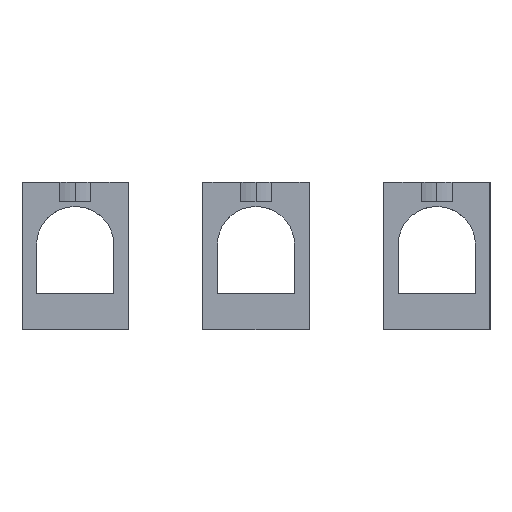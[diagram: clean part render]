
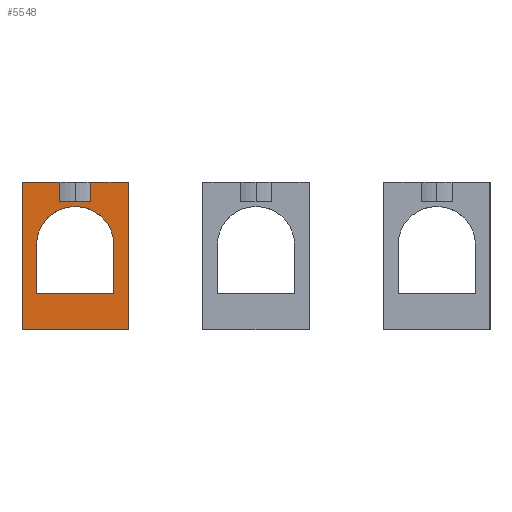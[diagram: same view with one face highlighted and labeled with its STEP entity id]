
A CAD part, front view. The second image highlights one B-rep face of the part: STEP entity #5548.
In plain terms, the highlighted planar face has unit normal (0, -1, 0).
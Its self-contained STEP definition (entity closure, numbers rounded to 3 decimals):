
#91 = CARTESIAN_POINT ( 'NONE',  ( -48.34, -84.75, 21.44 ) ) ;
#138 = ORIENTED_EDGE ( 'NONE', *, *, #5043, .F. ) ;
#139 = AXIS2_PLACEMENT_3D ( 'NONE', #3236, #1461, #5104 ) ;
#148 = VERTEX_POINT ( 'NONE', #1988 ) ;
#294 = DIRECTION ( 'NONE',  ( 0., 0., 1. ) ) ;
#305 = VERTEX_POINT ( 'NONE', #655 ) ;
#308 = ORIENTED_EDGE ( 'NONE', *, *, #5117, .F. ) ;
#453 = CARTESIAN_POINT ( 'NONE',  ( -34.186, -84.75, 47.94 ) ) ;
#467 = CARTESIAN_POINT ( 'NONE',  ( -45.34, -84.75, 28.94 ) ) ;
#532 = CARTESIAN_POINT ( 'NONE',  ( -48.34, -84.75, 21.44 ) ) ;
#541 = EDGE_CURVE ( 'NONE', #148, #305, #1300, .T. ) ;
#559 = DIRECTION ( 'NONE',  ( -1., 0., 0. ) ) ;
#655 = CARTESIAN_POINT ( 'NONE',  ( -40.494, -84.75, 51.94 ) ) ;
#671 = VERTEX_POINT ( 'NONE', #2385 ) ;
#729 = VERTEX_POINT ( 'NONE', #3297 ) ;
#730 = CARTESIAN_POINT ( 'NONE',  ( -34.186, -84.75, 47.94 ) ) ;
#857 = EDGE_LOOP ( 'NONE', ( #308, #1402, #4054, #5364, #4542, #5074, #4043, #5768 ) ) ;
#898 = CARTESIAN_POINT ( 'NONE',  ( -37.34, -84.75, 38.94 ) ) ;
#935 = CARTESIAN_POINT ( 'NONE',  ( -48.34, -84.75, 51.94 ) ) ;
#980 = PLANE ( 'NONE',  #139 ) ;
#981 = CIRCLE ( 'NONE', #4744, 8. ) ;
#1136 = CARTESIAN_POINT ( 'NONE',  ( -26.34, -84.75, 21.44 ) ) ;
#1182 = DIRECTION ( 'NONE',  ( -1., 0., 0. ) ) ;
#1239 = VECTOR ( 'NONE', #5238, 1000. ) ;
#1277 = CARTESIAN_POINT ( 'NONE',  ( -26.34, -84.75, 51.94 ) ) ;
#1287 = DIRECTION ( 'NONE',  ( 0., 0., 1. ) ) ;
#1300 = LINE ( 'NONE', #3586, #2442 ) ;
#1402 = ORIENTED_EDGE ( 'NONE', *, *, #1722, .T. ) ;
#1461 = DIRECTION ( 'NONE',  ( 0., -1., 0. ) ) ;
#1626 = DIRECTION ( 'NONE',  ( 1., 0., 0. ) ) ;
#1644 = VECTOR ( 'NONE', #4235, 1000. ) ;
#1672 = VERTEX_POINT ( 'NONE', #2516 ) ;
#1722 = EDGE_CURVE ( 'NONE', #5778, #1672, #1834, .T. ) ;
#1739 = VECTOR ( 'NONE', #2433, 1000. ) ;
#1821 = CARTESIAN_POINT ( 'NONE',  ( -29.34, -84.75, 28.94 ) ) ;
#1834 = LINE ( 'NONE', #1277, #2328 ) ;
#1845 = VECTOR ( 'NONE', #5603, 1000. ) ;
#1854 = DIRECTION ( 'NONE',  ( -1., 0., 0. ) ) ;
#1976 = VERTEX_POINT ( 'NONE', #91 ) ;
#1988 = CARTESIAN_POINT ( 'NONE',  ( -40.494, -84.75, 47.94 ) ) ;
#2003 = CARTESIAN_POINT ( 'NONE',  ( -34.186, -84.75, 47.94 ) ) ;
#2006 = LINE ( 'NONE', #532, #1644 ) ;
#2035 = LINE ( 'NONE', #935, #4784 ) ;
#2112 = CARTESIAN_POINT ( 'NONE',  ( -45.34, -84.75, 38.94 ) ) ;
#2121 = EDGE_CURVE ( 'NONE', #5250, #729, #2891, .T. ) ;
#2328 = VECTOR ( 'NONE', #294, 1000. ) ;
#2385 = CARTESIAN_POINT ( 'NONE',  ( -45.34, -84.75, 28.94 ) ) ;
#2433 = DIRECTION ( 'NONE',  ( 0., 0., -1. ) ) ;
#2442 = VECTOR ( 'NONE', #1287, 1000. ) ;
#2516 = CARTESIAN_POINT ( 'NONE',  ( -26.34, -84.75, 51.94 ) ) ;
#2517 = VERTEX_POINT ( 'NONE', #5115 ) ;
#2521 = VECTOR ( 'NONE', #5022, 1000. ) ;
#2691 = ORIENTED_EDGE ( 'NONE', *, *, #3273, .F. ) ;
#2740 = EDGE_CURVE ( 'NONE', #5250, #148, #3164, .T. ) ;
#2891 = LINE ( 'NONE', #2003, #1239 ) ;
#3057 = VERTEX_POINT ( 'NONE', #2112 ) ;
#3164 = LINE ( 'NONE', #453, #2521 ) ;
#3236 = CARTESIAN_POINT ( 'NONE',  ( -48.34, -84.75, 20.44 ) ) ;
#3273 = EDGE_CURVE ( 'NONE', #3354, #3913, #4386, .T. ) ;
#3286 = LINE ( 'NONE', #467, #1845 ) ;
#3297 = CARTESIAN_POINT ( 'NONE',  ( -34.186, -84.75, 51.94 ) ) ;
#3354 = VERTEX_POINT ( 'NONE', #5982 ) ;
#3477 = CARTESIAN_POINT ( 'NONE',  ( -45.34, -84.75, 28.94 ) ) ;
#3506 = LINE ( 'NONE', #3892, #5813 ) ;
#3586 = CARTESIAN_POINT ( 'NONE',  ( -40.494, -84.75, 47.94 ) ) ;
#3587 = VECTOR ( 'NONE', #3639, 1000. ) ;
#3639 = DIRECTION ( 'NONE',  ( 0., 0., 1. ) ) ;
#3892 = CARTESIAN_POINT ( 'NONE',  ( -48.34, -84.75, 51.94 ) ) ;
#3913 = VERTEX_POINT ( 'NONE', #5286 ) ;
#3989 = EDGE_CURVE ( 'NONE', #671, #3354, #4219, .T. ) ;
#4043 = ORIENTED_EDGE ( 'NONE', *, *, #4401, .T. ) ;
#4054 = ORIENTED_EDGE ( 'NONE', *, *, #5697, .T. ) ;
#4139 = DIRECTION ( 'NONE',  ( 0., -1., 0. ) ) ;
#4202 = LINE ( 'NONE', #4785, #1739 ) ;
#4219 = LINE ( 'NONE', #3477, #4441 ) ;
#4235 = DIRECTION ( 'NONE',  ( -1., 0., 0. ) ) ;
#4386 = LINE ( 'NONE', #1821, #3587 ) ;
#4401 = EDGE_CURVE ( 'NONE', #305, #2517, #2035, .T. ) ;
#4441 = VECTOR ( 'NONE', #1626, 1000. ) ;
#4542 = ORIENTED_EDGE ( 'NONE', *, *, #2740, .T. ) ;
#4584 = EDGE_CURVE ( 'NONE', #2517, #1976, #4202, .T. ) ;
#4598 = FACE_BOUND ( 'NONE', #5086, .T. ) ;
#4744 = AXIS2_PLACEMENT_3D ( 'NONE', #898, #4139, #1854 ) ;
#4784 = VECTOR ( 'NONE', #559, 1000. ) ;
#4785 = CARTESIAN_POINT ( 'NONE',  ( -48.34, -84.75, 51.94 ) ) ;
#4972 = ORIENTED_EDGE ( 'NONE', *, *, #3989, .F. ) ;
#5022 = DIRECTION ( 'NONE',  ( -1., 0., 0. ) ) ;
#5043 = EDGE_CURVE ( 'NONE', #3913, #3057, #981, .T. ) ;
#5074 = ORIENTED_EDGE ( 'NONE', *, *, #541, .T. ) ;
#5086 = EDGE_LOOP ( 'NONE', ( #5302, #138, #2691, #4972 ) ) ;
#5104 = DIRECTION ( 'NONE',  ( 1., 0., 0. ) ) ;
#5115 = CARTESIAN_POINT ( 'NONE',  ( -48.34, -84.75, 51.94 ) ) ;
#5117 = EDGE_CURVE ( 'NONE', #5778, #1976, #2006, .T. ) ;
#5238 = DIRECTION ( 'NONE',  ( 0., 0., 1. ) ) ;
#5250 = VERTEX_POINT ( 'NONE', #730 ) ;
#5286 = CARTESIAN_POINT ( 'NONE',  ( -29.34, -84.75, 38.94 ) ) ;
#5302 = ORIENTED_EDGE ( 'NONE', *, *, #5539, .F. ) ;
#5364 = ORIENTED_EDGE ( 'NONE', *, *, #2121, .F. ) ;
#5539 = EDGE_CURVE ( 'NONE', #3057, #671, #3286, .T. ) ;
#5548 = ADVANCED_FACE ( 'NONE', ( #4598, #5819 ), #980, .T. ) ;
#5603 = DIRECTION ( 'NONE',  ( 0., 0., -1. ) ) ;
#5697 = EDGE_CURVE ( 'NONE', #1672, #729, #3506, .T. ) ;
#5768 = ORIENTED_EDGE ( 'NONE', *, *, #4584, .T. ) ;
#5778 = VERTEX_POINT ( 'NONE', #1136 ) ;
#5813 = VECTOR ( 'NONE', #1182, 1000. ) ;
#5819 = FACE_OUTER_BOUND ( 'NONE', #857, .T. ) ;
#5982 = CARTESIAN_POINT ( 'NONE',  ( -29.34, -84.75, 28.94 ) ) ;
